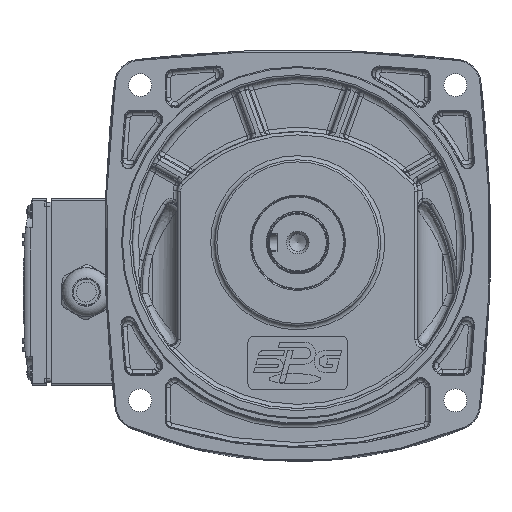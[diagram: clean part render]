
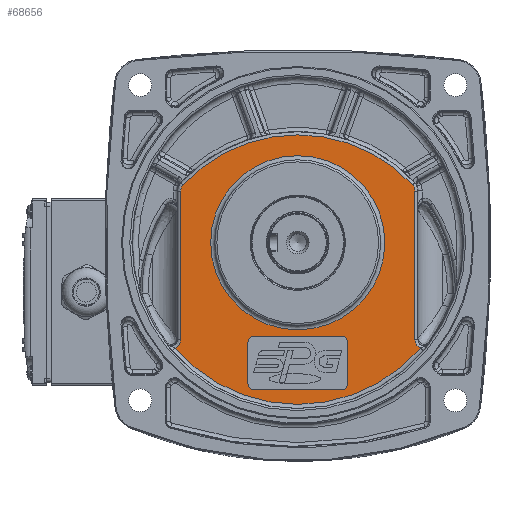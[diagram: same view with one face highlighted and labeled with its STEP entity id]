
A CAD part, top view. The second image highlights one B-rep face of the part: STEP entity #68656.
In plain terms, the highlighted planar face has unit normal (0, 0, 1).
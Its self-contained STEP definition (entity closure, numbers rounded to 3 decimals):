
#2180=FACE_BOUND('',#10652,.T.);
#2181=FACE_BOUND('',#10653,.T.);
#3089=PLANE('',#75074);
#6499=FACE_OUTER_BOUND('',#10651,.T.);
#10651=EDGE_LOOP('',(#56392,#56393,#56394,#56395,#56396,#56397,#56398,#56399));
#10652=EDGE_LOOP('',(#56400,#56401,#56402,#56403,#56404,#56405,#56406,#56407));
#10653=EDGE_LOOP('',(#56408));
#14390=CIRCLE('',#74452,3.);
#14392=CIRCLE('',#74456,3.);
#14394=CIRCLE('',#74460,3.);
#14418=CIRCLE('',#74487,3.);
#14724=CIRCLE('',#75070,77.963);
#14728=CIRCLE('',#75075,75.535);
#14729=CIRCLE('',#75076,42.);
#17476=B_SPLINE_CURVE_WITH_KNOTS('',3,(#148984,#148985,#148986,#148987,
#148988),.UNSPECIFIED.,.F.,.F.,(4,1,4),(0.603,0.795,
1.113),.UNSPECIFIED.);
#17478=B_SPLINE_CURVE_WITH_KNOTS('',3,(#149000,#149001,#149002,#149003,
#149004),.UNSPECIFIED.,.F.,.F.,(4,1,4),(0.,0.318,0.51),
 .UNSPECIFIED.);
#17479=B_SPLINE_CURVE_WITH_KNOTS('',3,(#149008,#149009,#149010,#149011),
 .UNSPECIFIED.,.F.,.F.,(4,4),(0.,0.336),.UNSPECIFIED.);
#17480=B_SPLINE_CURVE_WITH_KNOTS('',3,(#149015,#149016,#149017,#149018),
 .UNSPECIFIED.,.F.,.F.,(4,4),(0.,0.336),.UNSPECIFIED.);
#20323=LINE('',#142134,#23813);
#20327=LINE('',#142146,#23817);
#20362=LINE('',#142265,#23852);
#20432=LINE('',#142450,#23922);
#20672=LINE('',#149006,#24162);
#20673=LINE('',#149019,#24163);
#23813=VECTOR('',#88508,10.);
#23817=VECTOR('',#88520,10.);
#23852=VECTOR('',#88611,10.);
#23922=VECTOR('',#88799,10.);
#24162=VECTOR('',#90099,10.);
#24163=VECTOR('',#90102,10.);
#29333=VERTEX_POINT('',#142124);
#29334=VERTEX_POINT('',#142126);
#29336=VERTEX_POINT('',#142132);
#29338=VERTEX_POINT('',#142138);
#29340=VERTEX_POINT('',#142144);
#29343=VERTEX_POINT('',#142151);
#29344=VERTEX_POINT('',#142153);
#29396=VERTEX_POINT('',#142264);
#29865=VERTEX_POINT('',#148771);
#29866=VERTEX_POINT('',#148773);
#29870=VERTEX_POINT('',#148983);
#29872=VERTEX_POINT('',#148999);
#29873=VERTEX_POINT('',#149005);
#29874=VERTEX_POINT('',#149007);
#29875=VERTEX_POINT('',#149012);
#29876=VERTEX_POINT('',#149014);
#29877=VERTEX_POINT('',#149020);
#38097=EDGE_CURVE('',#29333,#29334,#14390,.T.);
#38101=EDGE_CURVE('',#29333,#29336,#20323,.T.);
#38104=EDGE_CURVE('',#29338,#29336,#14392,.T.);
#38107=EDGE_CURVE('',#29338,#29340,#20327,.T.);
#38110=EDGE_CURVE('',#29343,#29344,#14394,.T.);
#38167=EDGE_CURVE('',#29396,#29344,#20362,.T.);
#38169=EDGE_CURVE('',#29396,#29340,#14418,.T.);
#38262=EDGE_CURVE('',#29343,#29334,#20432,.T.);
#39009=EDGE_CURVE('',#29865,#29866,#14724,.T.);
#39016=EDGE_CURVE('',#29866,#29870,#17476,.T.);
#39019=EDGE_CURVE('',#29872,#29865,#17478,.T.);
#39020=EDGE_CURVE('',#29873,#29872,#20672,.T.);
#39021=EDGE_CURVE('',#29874,#29873,#17479,.T.);
#39022=EDGE_CURVE('',#29875,#29874,#14728,.T.);
#39023=EDGE_CURVE('',#29876,#29875,#17480,.T.);
#39024=EDGE_CURVE('',#29870,#29876,#20673,.T.);
#39025=EDGE_CURVE('',#29877,#29877,#14729,.T.);
#56392=ORIENTED_EDGE('',*,*,#39009,.F.);
#56393=ORIENTED_EDGE('',*,*,#39019,.F.);
#56394=ORIENTED_EDGE('',*,*,#39020,.F.);
#56395=ORIENTED_EDGE('',*,*,#39021,.F.);
#56396=ORIENTED_EDGE('',*,*,#39022,.F.);
#56397=ORIENTED_EDGE('',*,*,#39023,.F.);
#56398=ORIENTED_EDGE('',*,*,#39024,.F.);
#56399=ORIENTED_EDGE('',*,*,#39016,.F.);
#56400=ORIENTED_EDGE('',*,*,#38107,.T.);
#56401=ORIENTED_EDGE('',*,*,#38169,.F.);
#56402=ORIENTED_EDGE('',*,*,#38167,.T.);
#56403=ORIENTED_EDGE('',*,*,#38110,.F.);
#56404=ORIENTED_EDGE('',*,*,#38262,.T.);
#56405=ORIENTED_EDGE('',*,*,#38097,.F.);
#56406=ORIENTED_EDGE('',*,*,#38101,.T.);
#56407=ORIENTED_EDGE('',*,*,#38104,.F.);
#56408=ORIENTED_EDGE('',*,*,#39025,.F.);
#68656=ADVANCED_FACE('',(#6499,#2180,#2181),#3089,.F.);
#74452=AXIS2_PLACEMENT_3D('',#142127,#88501,#88502);
#74456=AXIS2_PLACEMENT_3D('',#142140,#88514,#88515);
#74460=AXIS2_PLACEMENT_3D('',#142154,#88526,#88527);
#74487=AXIS2_PLACEMENT_3D('',#142268,#88615,#88616);
#75070=AXIS2_PLACEMENT_3D('',#148774,#90089,#90090);
#75074=AXIS2_PLACEMENT_3D('',#148998,#90097,#90098);
#75075=AXIS2_PLACEMENT_3D('',#149013,#90100,#90101);
#75076=AXIS2_PLACEMENT_3D('',#149021,#90103,#90104);
#88501=DIRECTION('center_axis',(0.,0.,1.));
#88502=DIRECTION('ref_axis',(0.707,-0.707,0.));
#88508=DIRECTION('',(-1.,0.,0.));
#88514=DIRECTION('center_axis',(0.,0.,1.));
#88515=DIRECTION('ref_axis',(-0.707,-0.707,0.));
#88520=DIRECTION('',(0.,1.,0.));
#88526=DIRECTION('center_axis',(0.,0.,1.));
#88527=DIRECTION('ref_axis',(0.707,0.707,0.));
#88611=DIRECTION('',(1.,0.,0.));
#88615=DIRECTION('center_axis',(0.,0.,1.));
#88616=DIRECTION('ref_axis',(-0.707,0.707,0.));
#88799=DIRECTION('',(0.,-1.,0.));
#90089=DIRECTION('center_axis',(0.,0.,-1.));
#90090=DIRECTION('ref_axis',(0.,-1.,0.));
#90097=DIRECTION('center_axis',(0.,0.,-1.));
#90098=DIRECTION('ref_axis',(-1.,0.,0.));
#90099=DIRECTION('',(0.,-1.,0.));
#90100=DIRECTION('center_axis',(0.,0.,-1.));
#90101=DIRECTION('ref_axis',(0.,1.,0.));
#90102=DIRECTION('',(0.,1.,0.));
#90103=DIRECTION('center_axis',(0.,0.,1.));
#90104=DIRECTION('ref_axis',(-1.,0.,0.));
#142124=CARTESIAN_POINT('',(23.891,-47.42,56.));
#142126=CARTESIAN_POINT('',(26.891,-44.42,56.));
#142127=CARTESIAN_POINT('Origin',(23.891,-44.42,56.));
#142132=CARTESIAN_POINT('',(-18.109,-47.42,56.));
#142134=CARTESIAN_POINT('',(-9.109,-47.42,56.));
#142138=CARTESIAN_POINT('',(-21.109,-44.42,56.));
#142140=CARTESIAN_POINT('Origin',(-18.109,-44.42,56.));
#142144=CARTESIAN_POINT('',(-21.109,-24.42,56.));
#142146=CARTESIAN_POINT('',(-21.109,-10.67,56.));
#142151=CARTESIAN_POINT('',(26.891,-24.42,56.));
#142153=CARTESIAN_POINT('',(23.891,-21.42,56.));
#142154=CARTESIAN_POINT('Origin',(23.891,-24.42,56.));
#142264=CARTESIAN_POINT('',(-18.109,-21.42,56.));
#142265=CARTESIAN_POINT('',(14.891,-21.42,56.));
#142268=CARTESIAN_POINT('Origin',(-18.109,-24.42,56.));
#142450=CARTESIAN_POINT('',(26.891,-23.67,56.));
#148771=CARTESIAN_POINT('',(62.014,-27.239,56.));
#148773=CARTESIAN_POINT('',(-56.233,-27.239,56.));
#148774=CARTESIAN_POINT('Origin',(2.891,23.58,56.));
#148983=CARTESIAN_POINT('',(-53.609,-23.142,56.));
#148984=CARTESIAN_POINT('Ctrl Pts',(-56.235,-27.235,
56.));
#148985=CARTESIAN_POINT('Ctrl Pts',(-55.648,-26.963,
56.));
#148986=CARTESIAN_POINT('Ctrl Pts',(-54.241,-25.914,
56.));
#148987=CARTESIAN_POINT('Ctrl Pts',(-53.609,-24.202,
56.));
#148988=CARTESIAN_POINT('Ctrl Pts',(-53.609,-23.142,56.));
#148998=CARTESIAN_POINT('Origin',(2.891,0.08,56.));
#148999=CARTESIAN_POINT('',(59.391,-23.142,56.));
#149000=CARTESIAN_POINT('Ctrl Pts',(59.391,-23.142,
56.));
#149001=CARTESIAN_POINT('Ctrl Pts',(59.391,-24.202,
56.));
#149002=CARTESIAN_POINT('Ctrl Pts',(60.023,-25.914,
56.));
#149003=CARTESIAN_POINT('Ctrl Pts',(61.43,-26.963,
56.));
#149004=CARTESIAN_POINT('Ctrl Pts',(62.016,-27.235,
56.));
#149005=CARTESIAN_POINT('',(59.391,48.472,56.));
#149006=CARTESIAN_POINT('',(59.391,-35.67,56.));
#149007=CARTESIAN_POINT('',(58.184,51.541,56.));
#149008=CARTESIAN_POINT('Ctrl Pts',(58.184,51.541,56.));
#149009=CARTESIAN_POINT('Ctrl Pts',(58.946,50.722,56.));
#149010=CARTESIAN_POINT('Ctrl Pts',(59.391,49.591,56.));
#149011=CARTESIAN_POINT('Ctrl Pts',(59.391,48.472,56.));
#149012=CARTESIAN_POINT('',(-52.402,51.541,56.));
#149013=CARTESIAN_POINT('Origin',(2.891,0.08,56.));
#149014=CARTESIAN_POINT('',(-53.609,48.472,56.));
#149015=CARTESIAN_POINT('Ctrl Pts',(-53.609,48.472,56.));
#149016=CARTESIAN_POINT('Ctrl Pts',(-53.609,49.591,56.));
#149017=CARTESIAN_POINT('Ctrl Pts',(-53.165,50.722,
56.));
#149018=CARTESIAN_POINT('Ctrl Pts',(-52.402,51.541,
56.));
#149019=CARTESIAN_POINT('',(-53.609,-35.67,56.));
#149020=CARTESIAN_POINT('',(44.891,23.58,56.));
#149021=CARTESIAN_POINT('Origin',(2.891,23.58,56.));
